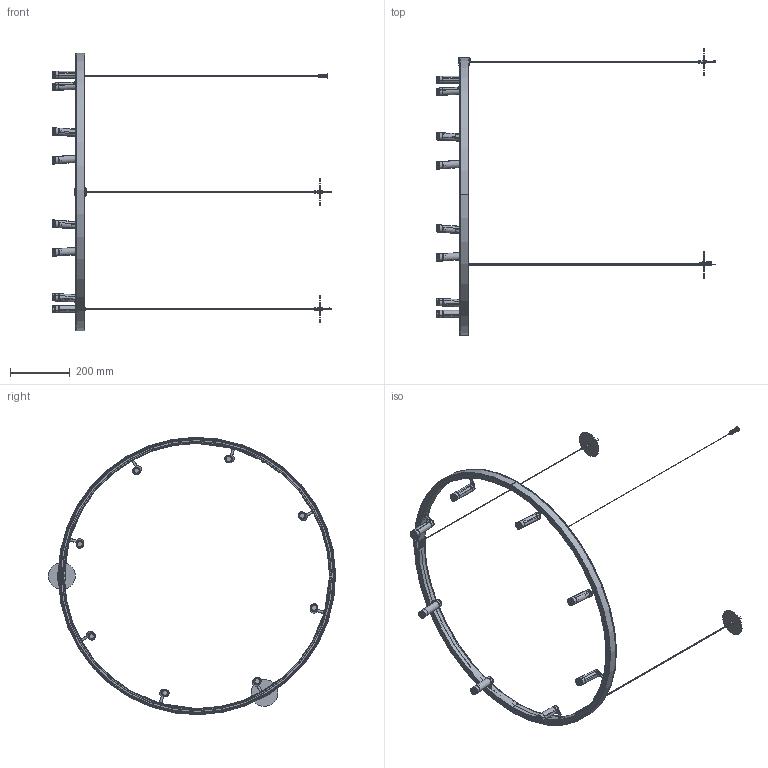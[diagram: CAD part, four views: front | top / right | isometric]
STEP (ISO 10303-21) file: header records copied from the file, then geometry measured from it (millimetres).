
FILE_DESCRIPTION (( 'STEP AP214' ), '1' );
FILE_NAME ('SPACE25_Ø900.STEP', '2024-05-29T15:26:08', ( '' ), ( '' ), 'SwSTEP 2.0', 'SolidWorks 2024', '' );
FILE_SCHEMA (( 'AUTOMOTIVE_DESIGN' ));
Length unit declared in the file: millimetre
Products named in the file (1): SPACE25_Ø900
Bounding box: 937.03 x 961.17 x 928.25 mm (x, y, z)
Volume: 834018 mm3; surface area: 839299.5 mm2
Topology: 62 solids, 64 shells, 4744 faces, 12073 edges, 7410 vertices
Faces by surface type: cylinder 1444, plane 1220, bspline 904, cone 703, torus 409, sphere 64
Entity records: 310174 total; most frequent: CARTESIAN_POINT 204567, ORIENTED_EDGE 23746, DIRECTION 20234, EDGE_CURVE 11873, AXIS2_PLACEMENT_3D 7956, VERTEX_POINT 7402, EDGE_LOOP 5131, ADVANCED_FACE 4744
